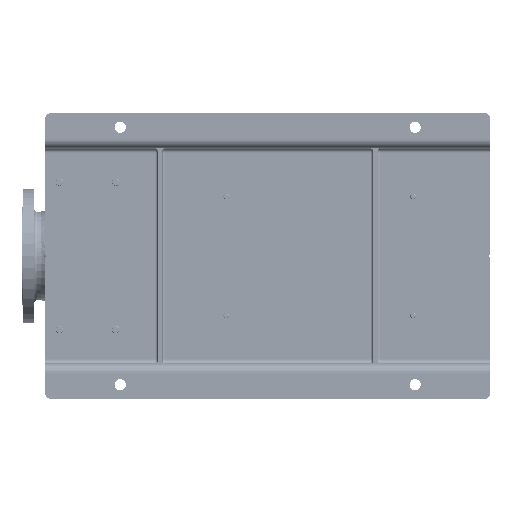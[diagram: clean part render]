
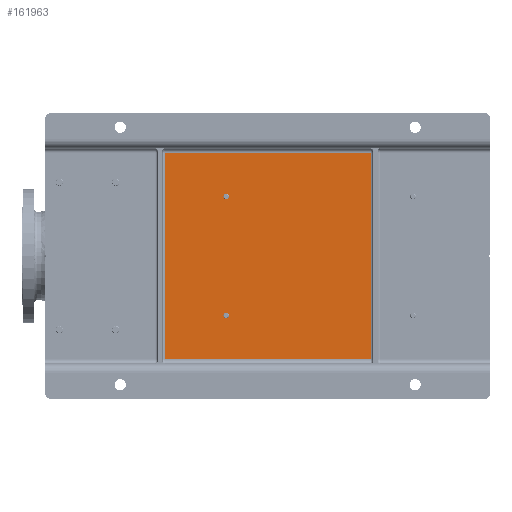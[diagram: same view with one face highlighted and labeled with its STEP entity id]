
A CAD part, front view. The second image highlights one B-rep face of the part: STEP entity #161963.
In plain terms, the highlighted planar face has unit normal (0, -1, 0).
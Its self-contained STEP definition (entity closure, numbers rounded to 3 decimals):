
#237 = VERTEX_POINT ( 'NONE', #111253 ) ;
#646 = DIRECTION ( 'NONE',  ( 0., -1., 0. ) ) ;
#888 = LINE ( 'NONE', #63961, #169297 ) ;
#2515 = AXIS2_PLACEMENT_3D ( 'NONE', #212754, #250429, #109385 ) ;
#13606 = CARTESIAN_POINT ( 'NONE',  ( 178., 65., -386.5 ) ) ;
#21323 = CARTESIAN_POINT ( 'NONE',  ( 75., 65., -695. ) ) ;
#25899 = DIRECTION ( 'NONE',  ( -1., 0., 0. ) ) ;
#27298 = AXIS2_PLACEMENT_3D ( 'NONE', #59741, #646, #206033 ) ;
#33179 = VECTOR ( 'NONE', #230783, 1000. ) ;
#33644 = DIRECTION ( 'NONE',  ( 0., 1., 0. ) ) ;
#35280 = EDGE_LOOP ( 'NONE', ( #131224, #128831, #233423, #46232 ) ) ;
#38298 = PLANE ( 'NONE',  #27298 ) ;
#39554 = CARTESIAN_POINT ( 'NONE',  ( 525., 65., -255. ) ) ;
#40718 = LINE ( 'NONE', #84952, #56818 ) ;
#46232 = ORIENTED_EDGE ( 'NONE', *, *, #157582, .T. ) ;
#48759 = AXIS2_PLACEMENT_3D ( 'NONE', #260495, #33644, #241630 ) ;
#51487 = CARTESIAN_POINT ( 'NONE',  ( 85., 65., -695. ) ) ;
#51680 = CARTESIAN_POINT ( 'NONE',  ( 432., 65., -380.5 ) ) ;
#54729 = EDGE_CURVE ( 'NONE', #238115, #191703, #193997, .T. ) ;
#56614 = EDGE_CURVE ( 'NONE', #168952, #212520, #206553, .T. ) ;
#56818 = VECTOR ( 'NONE', #25899, 1000. ) ;
#59741 = CARTESIAN_POINT ( 'NONE',  ( 75., 65., -950. ) ) ;
#60923 = EDGE_LOOP ( 'NONE', ( #98212, #126947 ) ) ;
#63961 = CARTESIAN_POINT ( 'NONE',  ( 525., 65., -250. ) ) ;
#78230 = AXIS2_PLACEMENT_3D ( 'NONE', #121856, #124557, #206444 ) ;
#79311 = CARTESIAN_POINT ( 'NONE',  ( 178., 65., -392.5 ) ) ;
#81403 = DIRECTION ( 'NONE',  ( 0., 0., 1. ) ) ;
#82485 = FACE_BOUND ( 'NONE', #60923, .T. ) ;
#84952 = CARTESIAN_POINT ( 'NONE',  ( 75., 65., -255. ) ) ;
#88442 = CARTESIAN_POINT ( 'NONE',  ( 85., 65., -700. ) ) ;
#94345 = CARTESIAN_POINT ( 'NONE',  ( 85., 65., -255. ) ) ;
#96866 = DIRECTION ( 'NONE',  ( 1., 0., 0. ) ) ;
#98212 = ORIENTED_EDGE ( 'NONE', *, *, #54729, .T. ) ;
#101602 = VECTOR ( 'NONE', #96866, 1000. ) ;
#102290 = AXIS2_PLACEMENT_3D ( 'NONE', #13606, #239109, #216338 ) ;
#109385 = DIRECTION ( 'NONE',  ( 0., 0., 1. ) ) ;
#111253 = CARTESIAN_POINT ( 'NONE',  ( 432., 65., -392.5 ) ) ;
#118210 = CIRCLE ( 'NONE', #2515, 6. ) ;
#120132 = FACE_BOUND ( 'NONE', #236054, .T. ) ;
#121856 = CARTESIAN_POINT ( 'NONE',  ( 178., 65., -386.5 ) ) ;
#124557 = DIRECTION ( 'NONE',  ( 0., 1., 0. ) ) ;
#125187 = ORIENTED_EDGE ( 'NONE', *, *, #172062, .T. ) ;
#125978 = CIRCLE ( 'NONE', #48759, 6. ) ;
#126947 = ORIENTED_EDGE ( 'NONE', *, *, #251369, .T. ) ;
#128831 = ORIENTED_EDGE ( 'NONE', *, *, #56614, .T. ) ;
#129943 = CARTESIAN_POINT ( 'NONE',  ( 178., 65., -380.5 ) ) ;
#131224 = ORIENTED_EDGE ( 'NONE', *, *, #249304, .T. ) ;
#145240 = VERTEX_POINT ( 'NONE', #39554 ) ;
#157582 = EDGE_CURVE ( 'NONE', #145240, #165105, #40718, .T. ) ;
#159139 = FACE_OUTER_BOUND ( 'NONE', #35280, .T. ) ;
#161963 = ADVANCED_FACE ( 'NONE', ( #120132, #82485, #159139 ), #38298, .T. ) ;
#163527 = EDGE_CURVE ( 'NONE', #212520, #145240, #888, .T. ) ;
#165105 = VERTEX_POINT ( 'NONE', #94345 ) ;
#166324 = VERTEX_POINT ( 'NONE', #51680 ) ;
#166413 = LINE ( 'NONE', #88442, #33179 ) ;
#168952 = VERTEX_POINT ( 'NONE', #51487 ) ;
#169297 = VECTOR ( 'NONE', #81403, 1000. ) ;
#172062 = EDGE_CURVE ( 'NONE', #166324, #237, #125978, .T. ) ;
#174703 = CARTESIAN_POINT ( 'NONE',  ( 525., 65., -695. ) ) ;
#191703 = VERTEX_POINT ( 'NONE', #79311 ) ;
#193997 = CIRCLE ( 'NONE', #78230, 6. ) ;
#206033 = DIRECTION ( 'NONE',  ( 0., 0., -1. ) ) ;
#206444 = DIRECTION ( 'NONE',  ( 0., 0., -1. ) ) ;
#206553 = LINE ( 'NONE', #21323, #101602 ) ;
#212520 = VERTEX_POINT ( 'NONE', #174703 ) ;
#212754 = CARTESIAN_POINT ( 'NONE',  ( 432., 65., -386.5 ) ) ;
#216338 = DIRECTION ( 'NONE',  ( 0., 0., -1. ) ) ;
#218086 = CIRCLE ( 'NONE', #102290, 6. ) ;
#230783 = DIRECTION ( 'NONE',  ( 0., 0., -1. ) ) ;
#231034 = ORIENTED_EDGE ( 'NONE', *, *, #243093, .T. ) ;
#233423 = ORIENTED_EDGE ( 'NONE', *, *, #163527, .T. ) ;
#236054 = EDGE_LOOP ( 'NONE', ( #125187, #231034 ) ) ;
#238115 = VERTEX_POINT ( 'NONE', #129943 ) ;
#239109 = DIRECTION ( 'NONE',  ( 0., 1., 0. ) ) ;
#241630 = DIRECTION ( 'NONE',  ( 0., 0., 1. ) ) ;
#243093 = EDGE_CURVE ( 'NONE', #237, #166324, #118210, .T. ) ;
#249304 = EDGE_CURVE ( 'NONE', #165105, #168952, #166413, .T. ) ;
#250429 = DIRECTION ( 'NONE',  ( 0., 1., 0. ) ) ;
#251369 = EDGE_CURVE ( 'NONE', #191703, #238115, #218086, .T. ) ;
#260495 = CARTESIAN_POINT ( 'NONE',  ( 432., 65., -386.5 ) ) ;
